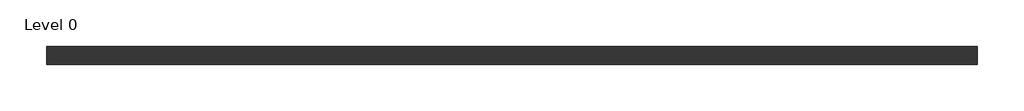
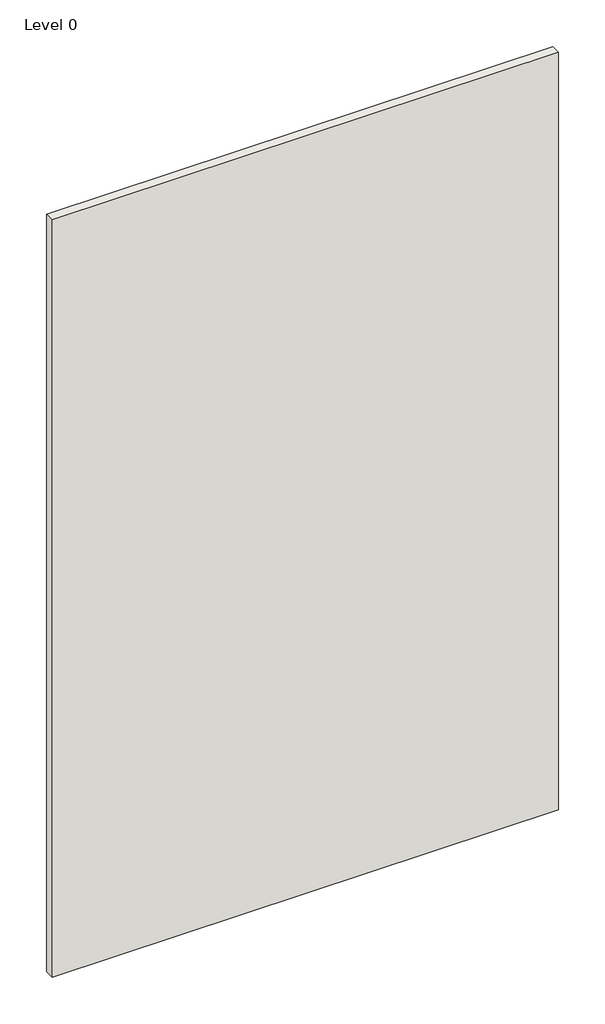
# One storey: 1 wall.
"""IFC4 building model written with IfcOpenShell, lengths in millimetres."""

import ifcopenshell
import ifcopenshell.guid

model = None  # the IFC model being written
_history = None  # IfcOwnerHistory: only IFC2X3 demands one
_inside = {}  # id of a spatial element -> (the spatial element, [elements in it])
_under = {}  # id of a project, library or spatial element -> (it, [spatial elements below it])
_declared = {}  # id of a project -> (the project, [libraries it declares])
_typed = {}  # id of a type object -> (the type object, [elements of that type])
_made_of = {}  # id of a material, layer set ... -> (it, [elements and type objects made of it])


def new_model(schema):
    """Start an empty IFC model of exactly this schema.

    Asked for "IFC4X3", IfcOpenShell would pick the latest addendum, in which some entities
    have other attributes; the version numbers below select the first issue.
    IFC2X3 requires an IfcOwnerHistory on every rooted entity: one is made here for all.
    """
    global model, _history
    if schema == "IFC4X3":
        model = ifcopenshell.file(schema_version=(4, 3, 0, 0))
    else:
        model = ifcopenshell.file(schema=schema)
    _inside.clear()
    _under.clear()
    _declared.clear()
    _typed.clear()
    _made_of.clear()
    _history = None
    if model.schema == "IFC2X3":
        org = make("IfcOrganization", Name="unknown")
        user = make(
            "IfcPersonAndOrganization",
            ThePerson=make("IfcPerson", FamilyName="unknown"),
            TheOrganization=org,
        )
        app = make(
            "IfcApplication",
            ApplicationDeveloper=org,
            Version="unknown",
            ApplicationFullName="unknown",
            ApplicationIdentifier="unknown",
        )
        _history = make(
            "IfcOwnerHistory",
            OwningUser=user,
            OwningApplication=app,
            ChangeAction="ADDED",
            CreationDate=0,
        )
    return model


def make(cls, **values):
    """One entity of the class cls with the attributes given. An attribute that is None is left unset."""
    return model.create_entity(
        cls, **{name: value for name, value in values.items() if value is not None}
    )


def rooted(cls, **values):
    """An entity with a GlobalId (a new one), such as an element, a storey or a relation."""
    return make(cls, GlobalId=ifcopenshell.guid.new(), OwnerHistory=_history, **values)


def si_unit(unit_type, name, prefix=None):
    """IfcSIUnit, for example si_unit("LENGTHUNIT", "METRE", prefix="MILLI")."""
    return make("IfcSIUnit", UnitType=unit_type, Prefix=prefix, Name=name)


def assignment(units):
    """IfcUnitAssignment: the units of a project."""
    return None if units is None else make("IfcUnitAssignment", Units=units)


def point(xyz):
    """IfcCartesianPoint."""
    return None if xyz is None else make("IfcCartesianPoint", Coordinates=xyz)


def direction(xyz):
    """IfcDirection."""
    return None if xyz is None else make("IfcDirection", DirectionRatios=xyz)


def frame(location, z_axis=None, x_axis=None):
    """IfcAxis2Placement3D, a coordinate frame: its origin and axes. An axis left out is left unset."""
    return make(
        "IfcAxis2Placement3D",
        Location=point(location),
        Axis=direction(z_axis),
        RefDirection=direction(x_axis),
    )


def origin():
    """The frame at (0, 0, 0) with its axes left unset."""
    return frame((0.0, 0.0, 0.0))


def origin_with_axes():
    """The frame at (0, 0, 0) with the z axis (0, 0, 1) and the x axis (1, 0, 0) written out."""
    return frame((0.0, 0.0, 0.0), z_axis=(0.0, 0.0, 1.0), x_axis=(1.0, 0.0, 0.0))


def place(relative_to, where):
    """IfcLocalPlacement: puts the frame where relative to a parent placement (None: the world)."""
    return make(
        "IfcLocalPlacement", PlacementRelTo=relative_to, RelativePlacement=where
    )


def context(
    kind, dimensions, precision=None, world=None, true_north=None, identifier=None
):
    """IfcGeometricRepresentationContext, for example the 3D "Model" context."""
    return make(
        "IfcGeometricRepresentationContext",
        ContextIdentifier=identifier,
        ContextType=kind,
        CoordinateSpaceDimension=dimensions,
        Precision=precision,
        WorldCoordinateSystem=world,
        TrueNorth=true_north,
    )


def project(units=None, contexts=None):
    """IfcProject with its units and contexts."""
    return rooted(
        "IfcProject",
        Name="project",
        RepresentationContexts=contexts,
        UnitsInContext=assignment(units),
    )


def spatial(cls, under=None, at=None, **own):
    """A site, building, storey or space (cls), placed at a placement, below another one or the project."""
    s = rooted(cls, ObjectPlacement=at, **own)
    if under is not None:
        _under.setdefault(under.id(), (under, []))[1].append(s)
    return s


def polyline(points):
    """IfcPolyline through the points."""
    return make("IfcPolyline", Points=[point(p) for p in points])


def outline(outer, holes=None, kind="AREA"):
    """IfcArbitraryClosedProfileDef: a profile drawn as a closed curve; with holes, ...WithVoids."""
    if holes is None:
        return make("IfcArbitraryClosedProfileDef", ProfileType=kind, OuterCurve=outer)
    return make(
        "IfcArbitraryProfileDefWithVoids",
        ProfileType=kind,
        OuterCurve=outer,
        InnerCurves=holes,
    )


def extrude(swept, where, along, depth):
    """IfcExtrudedAreaSolid: the profile swept, set in the frame where, extruded along a direction by depth."""
    return make(
        "IfcExtrudedAreaSolid",
        SweptArea=swept,
        Position=where,
        ExtrudedDirection=direction(along),
        Depth=depth,
    )


def shape(context_of_items, identifier, shape_type, items):
    """IfcShapeRepresentation: the items that make up one representation, for example the "Body"."""
    return make(
        "IfcShapeRepresentation",
        ContextOfItems=context_of_items,
        RepresentationIdentifier=identifier,
        RepresentationType=shape_type,
        Items=items,
    )


def made_of(thing, what):
    """Note that an element or type object is made of a material, layer set ...; save() writes the relation."""
    if what is not None:
        _made_of.setdefault(what.id(), (what, []))[1].append(thing)
    return thing


def element(
    cls,
    number,
    at=None,
    inside=None,
    cuts=None,
    type_object=None,
    material=None,
    context=None,
    identifier="Body",
    shape_type=None,
    held_by="IfcProductDefinitionShape",
    body=None,
    shapes=None,
    **own,
):
    """One element of the class cls, such as IfcWall. Its Tag is "e" and its number.

    at: its placement. inside: the storey or other place that contains it. cuts: it is an
    opening in that element (IfcRelVoidsElement). A single representation is given by context,
    identifier, shape_type and body (its items); several are given by shapes. held_by: the class
    of the entity that holds the representations. save() writes the other relations.
    """
    e = rooted(cls, Tag="e%d" % number, ObjectPlacement=at, **own)
    if body is not None:
        shapes = [shape(context, identifier, shape_type, body)]
    if shapes is not None:
        e.Representation = make(held_by, Representations=shapes)
    if inside is not None:
        _inside.setdefault(inside.id(), (inside, []))[1].append(e)
    if cuts is not None:
        rooted(
            "IfcRelVoidsElement", RelatingBuildingElement=cuts, RelatedOpeningElement=e
        )
    if type_object is not None:
        _typed.setdefault(type_object.id(), (type_object, []))[1].append(e)
    return made_of(e, material)


def aggregate(whole, parts):
    """IfcRelAggregates: a whole, such as a stair, and the parts it consists of."""
    return rooted("IfcRelAggregates", RelatingObject=whole, RelatedObjects=parts)


def save(model, path):
    """Write the relations noted so far, then the file.

    IfcRelAggregates (storeys below a building ...), IfcRelContainedInSpatialStructure (elements
    in a storey), IfcRelDefinesByType, IfcRelAssociatesMaterial and IfcRelDeclares: one each for
    every whole, place, type object, material and project.
    """
    for whole, parts in _under.values():
        aggregate(whole, parts)
    for where, things in _inside.values():
        rooted(
            "IfcRelContainedInSpatialStructure",
            RelatedElements=things,
            RelatingStructure=where,
        )
    for kind, things in _typed.values():
        rooted("IfcRelDefinesByType", RelatedObjects=things, RelatingType=kind)
    for what, things in _made_of.values():
        rooted("IfcRelAssociatesMaterial", RelatedObjects=things, RelatingMaterial=what)
    for by, libraries in _declared.values():
        rooted("IfcRelDeclares", RelatingContext=by, RelatedDefinitions=libraries)
    model.write(path)


model = new_model("IFC4")

# Units and contexts
model_context = context("Model", 3, world=origin())
ifc_project = project(units=[si_unit("LENGTHUNIT", "METRE", prefix="MILLI")], contexts=[model_context])

# Site, building, storey
site = spatial("IfcSite", under=ifc_project)
building = spatial("IfcBuilding", under=site)
storey = spatial("IfcBuildingStorey", under=building, Name="Level 0", Elevation=0.0)

# Wall
placement = place(None, origin())
element("IfcWall", 1, ObjectType="B216025(a) - GypLyner IWL", at=placement, inside=storey, context=model_context, shape_type="SweptSolid", body=[
    extrude(outline(polyline([(1155.997948, 525.0169953), (-1944.002052, 525.0169953), (-1944.002052, 585.5169953), (1155.997948, 585.5169953), (1155.997948, 525.0169953)])), origin_with_axes(), (0.0, 0.0, 1.0), 4900.0),
])

save(model, "model.ifc")
